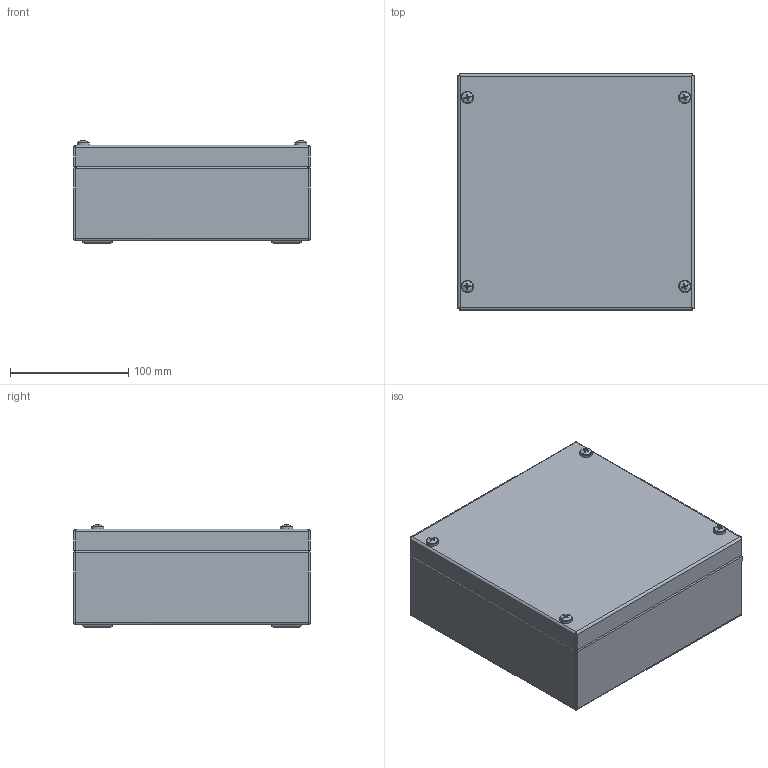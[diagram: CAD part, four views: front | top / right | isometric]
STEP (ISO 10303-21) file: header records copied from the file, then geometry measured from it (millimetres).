
FILE_DESCRIPTION (( 'STEP AP203' ), '1' );
FILE_NAME ('SS JB-200 x 200 x 81-Assembly.STEP', '2020-03-13T10:25:57', ( '' ), ( '' ), 'SwSTEP 2.0', 'SolidWorks 2018', '' );
FILE_SCHEMA (( 'CONFIG_CONTROL_DESIGN' ));
Length unit declared in the file: millimetre
Products named in the file (7): Dinral Mounting Channel-200; M5 BLIND NUTSERT; M5X33 LID SCREW; SS JB-200 x 200 x 81-Assembly; SS JB-200 x 200 x 81-BASE_200 X 200 X 81; SS JB-200 x 200 x 81-LID_200 x 200 x 121; PLASTIC INSERT FOR FABRICATED ENCLOSURE
Assembly tree (16 placements, depth 2):
  SS JB-200 x 200 x 81-Assembly
    SS JB-200 x 200 x 81-BASE_200 X 200 X 81
    Dinral Mounting Channel-200  x2
    SS JB-200 x 200 x 81-LID_200 x 200 x 121
    M5 BLIND NUTSERT  x4
    M5X33 LID SCREW  x4
    PLASTIC INSERT FOR FABRICATED ENCLOSURE  x4
Bounding box: 200 x 200 x 86.81 mm (x, y, z)
Volume: 220247.4 mm3; surface area: 356077.4 mm2
Topology: 16 solids, 16 shells, 723 faces, 1726 edges, 1068 vertices
Faces by surface type: cylinder 314, plane 265, cone 104, bspline 32, sphere 8
Entity records: 14975 total; most frequent: CARTESIAN_POINT 4880, ORIENTED_EDGE 1920, DIRECTION 1771, EDGE_CURVE 960, AXIS2_PLACEMENT_3D 606, VERTEX_POINT 578, LINE 559, VECTOR 559
